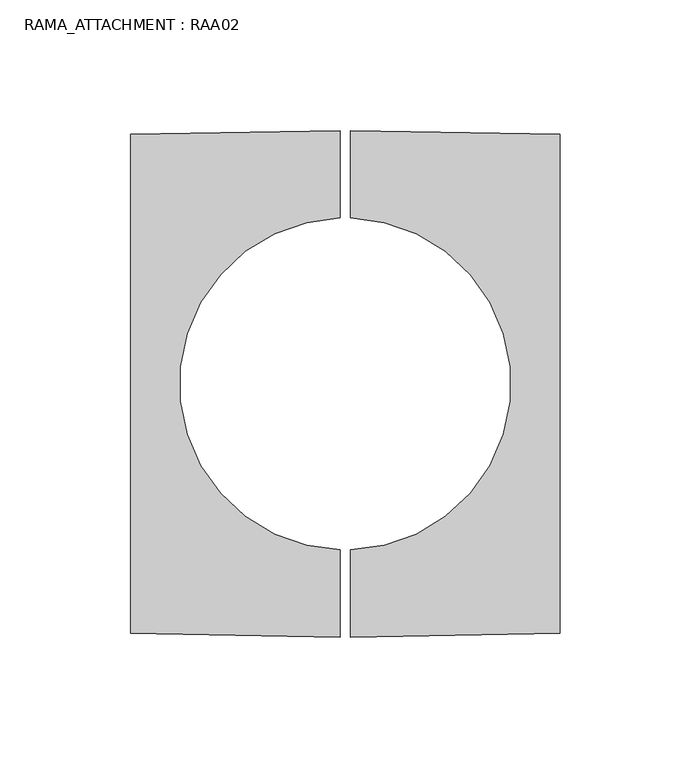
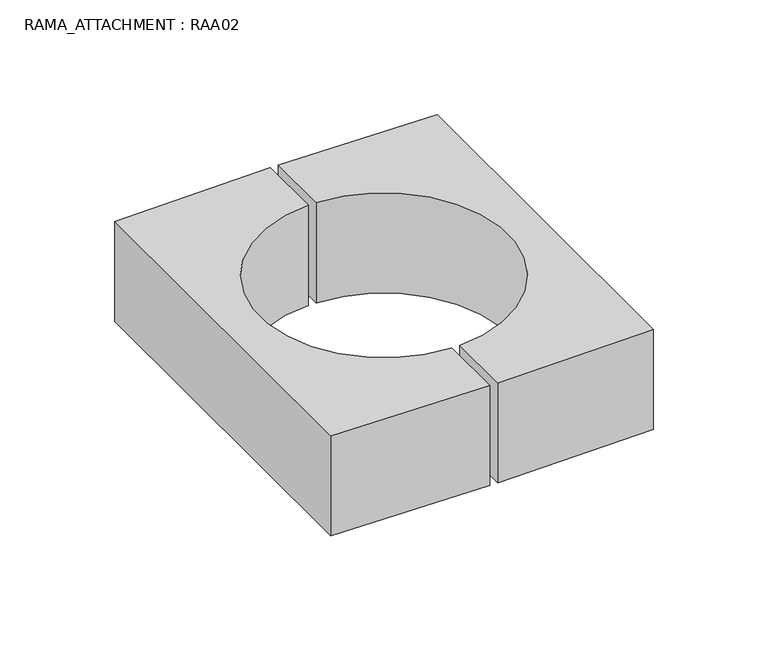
"""IFC4 building model written with IfcOpenShell, lengths in millimetres: light fixture geometry, RAMA_ATTACHMENT : RAA02."""

from ifc_helpers import new_model, si_unit, point, frame, origin, origin_2d, place, context, project, spatial, polyline, circle_curve, trimmed, segment, composite_curve, outline, extrude, source, transform, mapped, element, save


def rama_attachment_raa02_64b467fc(model_context):
    return source(origin(), model_context, "Body", "SweptSolid", [
        extrude(outline(composite_curve([segment(polyline([(-82.1339264, -95.3952439), (-82.1339264, 95.3952439), (-2.0, 96.8186151), (-2.0, 63.4684961)]), True, "CONTINUOUS"), segment(trimmed(circle_curve(origin_2d(), 63.5), [point((-2.0, 63.4684961))], [point((-2.0, -63.4684961))], True, "CARTESIAN"), True, "CONTINUOUS"), segment(polyline([(-2.0, -63.4684961), (-2.0, -96.8186151), (-82.1339264, -95.3952439)]), True, "CONTINUOUS")], self_intersect=False)), frame((0.0, 0.0, -27.0), z_axis=(0.0, 0.0, 1.0), x_axis=(1.0, 0.0, 0.0)), (0.0, 0.0, 1.0), 54.0),
        extrude(outline(composite_curve([segment(polyline([(82.1339264, -95.3952439), (2.0, -96.8186151), (2.0, -63.4684961)]), True, "CONTINUOUS"), segment(trimmed(circle_curve(origin_2d(), 63.5), [point((2.0, -63.4684961))], [point((2.0, 63.4684961))], True, "CARTESIAN"), True, "CONTINUOUS"), segment(polyline([(2.0, 63.4684961), (2.0, 96.8186151), (82.1339264, 95.3952439), (82.1339264, -95.3952439)]), True, "CONTINUOUS")], self_intersect=False)), frame((0.0, 0.0, -27.0), z_axis=(0.0, 0.0, 1.0), x_axis=(1.0, 0.0, 0.0)), (0.0, 0.0, 1.0), 54.0),
    ])


if __name__ == "__main__":
    model = new_model("IFC4")
    model_context = context("Model", 3, world=origin())
    ifc_project = project(units=[si_unit("LENGTHUNIT", "METRE", prefix="MILLI")], contexts=[model_context])
    site = spatial("IfcSite", under=ifc_project)
    building = spatial("IfcBuilding", under=site)
    placement = place(None, origin())
    rama_attachment_raa02_shape = rama_attachment_raa02_64b467fc(model_context)
    element("IfcLightFixture", 1, ObjectType="RAMA_ATTACHMENT : RAA02", at=placement, inside=building, context=model_context, shape_type="MappedRepresentation", body=[
        mapped(rama_attachment_raa02_shape, transform((0.0, 0.0, 0.0), x_axis=(1.0, 0.0, 0.0), y_axis=(0.0, 1.0, 0.0), z_axis=(0.0, 0.0, 1.0))),
    ])
    save(model, "model.ifc")
